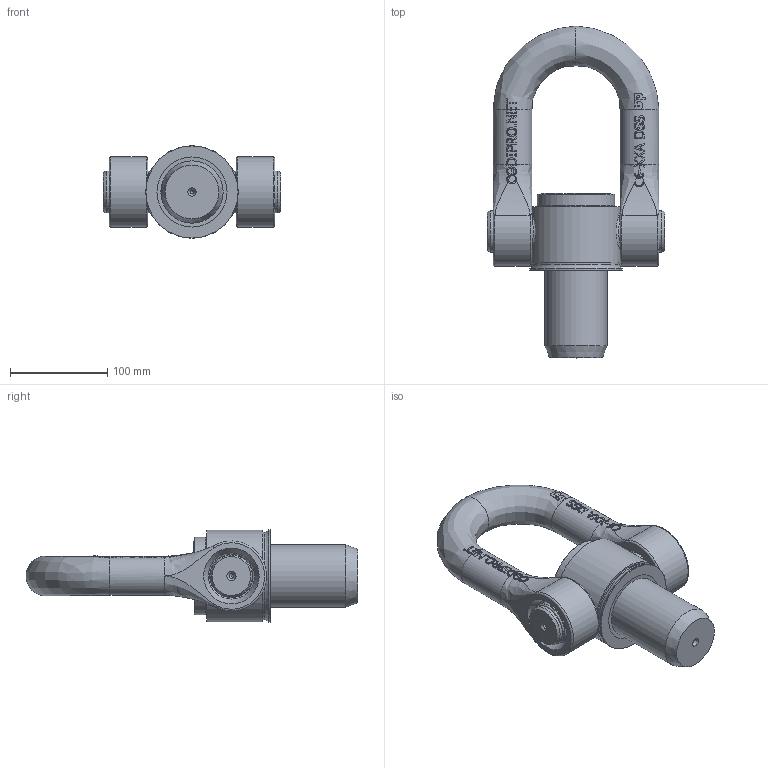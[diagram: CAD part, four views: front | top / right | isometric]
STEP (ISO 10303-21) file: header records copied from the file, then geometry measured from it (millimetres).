
FILE_DESCRIPTION(/* description */ (''),/* implementation_level */ '2;1');
FILE_NAME(/* name */ 'W:\CODIPRO\DOCUMENTS\Plans A NE PAS DIFFUSER !!!\Fichier STEP Modelisé\Gamme UP\Produits UP\DSS UP\DSS M64 UP.stp',/* time_stamp */ '2017-09-20T08:51:58+02:00',/* author */ ('rklenes'),/* organization */ (''),/* preprocessor_version */ 'ST-DEVELOPER v16.5',/* originating_system */ 'Autodesk Inventor 2017',/* authorisation */ '');
FILE_SCHEMA (('AUTOMOTIVE_DESIGN { 1 0 10303 214 3 1 1 }'));
Length unit declared in the file: millimetre
Products named in the file (7): DSS M64 UP; DSS_N4BISX68; DSM_N4X68_BIS; DSM_M4_BIS; DIN 7993 - A 42; DSA_M64X156_UP; DSE_M64A
Assembly tree (7 placements, depth 3):
  DSS M64 UP
    DSS_N4BISX68
      DSM_N4X68_BIS
      DSM_M4_BIS
      DIN 7993 - A 42  x2
    DSA_M64X156_UP
    DSE_M64A
Bounding box: 182 x 341 x 95 mm (x, y, z)
Volume: 1628681.6 mm3; surface area: 204299.5 mm2
Topology: 6 solids, 6 shells, 859 faces, 2331 edges, 1541 vertices
Faces by surface type: plane 421, bspline 315, cylinder 78, cone 32, torus 13
Full cylindrical faces by diameter (mm): 4 x1, 4.917 x2, 40 x2, 43 x4, 44.2 x2, 64 x4, 64.2 x1, 67.7 x2, 68 x3, 80 x1, 90 x1, 95 x1
Entity records: 31793 total; most frequent: CARTESIAN_POINT 12224, ORIENTED_EDGE 4516, DIRECTION 2976, EDGE_CURVE 2258, VERTEX_POINT 1527, LINE 1208, VECTOR 1208, EDGE_LOOP 979
